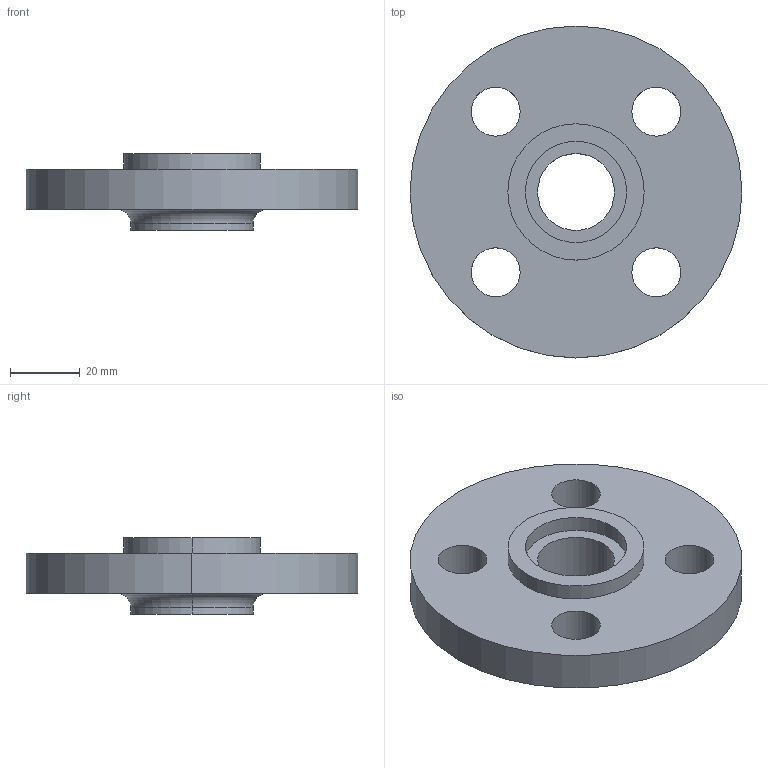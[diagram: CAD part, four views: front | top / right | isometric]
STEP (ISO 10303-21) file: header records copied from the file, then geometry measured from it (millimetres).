
FILE_DESCRIPTION (( 'STEP AP214' ), '1' );
FILE_NAME ('PN40 DN15 Type 12 - Type C Face.STEP', '2018-12-29T14:59:54', ( '' ), ( '' ), 'SwSTEP 2.0', 'SolidWorks 2019', '' );
FILE_SCHEMA (( 'AUTOMOTIVE_DESIGN' ));
Length unit declared in the file: millimetre
Products named in the file (1): PN40 DN15 Type 12 - Type C Face
Bounding box: 95 x 95 x 22 mm (x, y, z)
Volume: 76353.9 mm3; surface area: 20289 mm2
Topology: 1 solids, 1 shells, 25 faces, 58 edges, 38 vertices
Faces by surface type: cylinder 18, plane 5, torus 2
Entity records: 790 total; most frequent: DIRECTION 150, CARTESIAN_POINT 122, ORIENTED_EDGE 116, AXIS2_PLACEMENT_3D 66, EDGE_CURVE 58, CIRCLE 40, VERTEX_POINT 38, EDGE_LOOP 38
